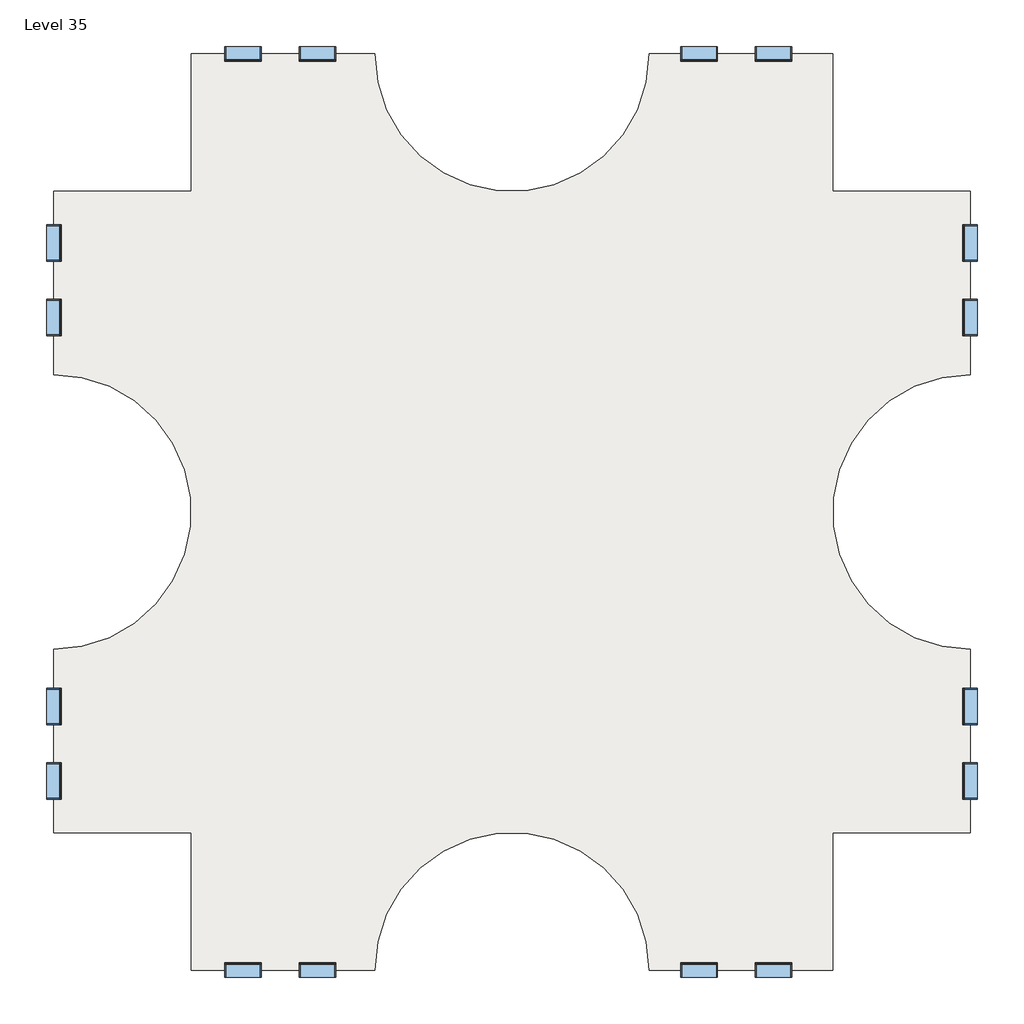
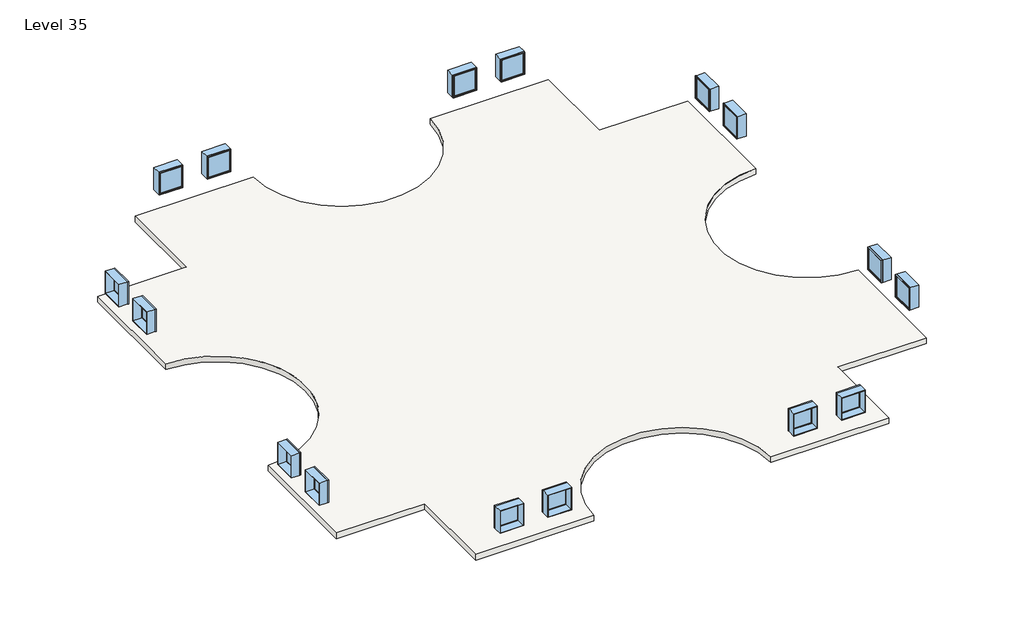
# One storey: 16 windows, 3 slabs.
"""IFC4 building model written with IfcOpenShell, lengths in millimetres."""

import ifcopenshell
import ifcopenshell.guid

model = None  # the IFC model being written
_history = None  # IfcOwnerHistory: only IFC2X3 demands one
_inside = {}  # id of a spatial element -> (the spatial element, [elements in it])
_under = {}  # id of a project, library or spatial element -> (it, [spatial elements below it])
_declared = {}  # id of a project -> (the project, [libraries it declares])
_typed = {}  # id of a type object -> (the type object, [elements of that type])
_made_of = {}  # id of a material, layer set ... -> (it, [elements and type objects made of it])


def new_model(schema):
    """Start an empty IFC model of exactly this schema.

    Asked for "IFC4X3", IfcOpenShell would pick the latest addendum, in which some entities
    have other attributes; the version numbers below select the first issue.
    IFC2X3 requires an IfcOwnerHistory on every rooted entity: one is made here for all.
    """
    global model, _history
    if schema == "IFC4X3":
        model = ifcopenshell.file(schema_version=(4, 3, 0, 0))
    else:
        model = ifcopenshell.file(schema=schema)
    _inside.clear()
    _under.clear()
    _declared.clear()
    _typed.clear()
    _made_of.clear()
    _history = None
    if model.schema == "IFC2X3":
        org = make("IfcOrganization", Name="unknown")
        user = make(
            "IfcPersonAndOrganization",
            ThePerson=make("IfcPerson", FamilyName="unknown"),
            TheOrganization=org,
        )
        app = make(
            "IfcApplication",
            ApplicationDeveloper=org,
            Version="unknown",
            ApplicationFullName="unknown",
            ApplicationIdentifier="unknown",
        )
        _history = make(
            "IfcOwnerHistory",
            OwningUser=user,
            OwningApplication=app,
            ChangeAction="ADDED",
            CreationDate=0,
        )
    return model


def make(cls, **values):
    """One entity of the class cls with the attributes given. An attribute that is None is left unset."""
    return model.create_entity(
        cls, **{name: value for name, value in values.items() if value is not None}
    )


def rooted(cls, **values):
    """An entity with a GlobalId (a new one), such as an element, a storey or a relation."""
    return make(cls, GlobalId=ifcopenshell.guid.new(), OwnerHistory=_history, **values)


def si_unit(unit_type, name, prefix=None):
    """IfcSIUnit, for example si_unit("LENGTHUNIT", "METRE", prefix="MILLI")."""
    return make("IfcSIUnit", UnitType=unit_type, Prefix=prefix, Name=name)


def assignment(units):
    """IfcUnitAssignment: the units of a project."""
    return None if units is None else make("IfcUnitAssignment", Units=units)


def point(xyz):
    """IfcCartesianPoint."""
    return None if xyz is None else make("IfcCartesianPoint", Coordinates=xyz)


def direction(xyz):
    """IfcDirection."""
    return None if xyz is None else make("IfcDirection", DirectionRatios=xyz)


def frame(location, z_axis=None, x_axis=None):
    """IfcAxis2Placement3D, a coordinate frame: its origin and axes. An axis left out is left unset."""
    return make(
        "IfcAxis2Placement3D",
        Location=point(location),
        Axis=direction(z_axis),
        RefDirection=direction(x_axis),
    )


def frame_2d(location, x_axis=None):
    """IfcAxis2Placement2D, a coordinate frame in the plane: its origin and x axis."""
    return make(
        "IfcAxis2Placement2D", Location=point(location), RefDirection=direction(x_axis)
    )


def origin():
    """The frame at (0, 0, 0) with its axes left unset."""
    return frame((0.0, 0.0, 0.0))


def place(relative_to, where):
    """IfcLocalPlacement: puts the frame where relative to a parent placement (None: the world)."""
    return make(
        "IfcLocalPlacement", PlacementRelTo=relative_to, RelativePlacement=where
    )


def context(
    kind, dimensions, precision=None, world=None, true_north=None, identifier=None
):
    """IfcGeometricRepresentationContext, for example the 3D "Model" context."""
    return make(
        "IfcGeometricRepresentationContext",
        ContextIdentifier=identifier,
        ContextType=kind,
        CoordinateSpaceDimension=dimensions,
        Precision=precision,
        WorldCoordinateSystem=world,
        TrueNorth=true_north,
    )


def project(units=None, contexts=None):
    """IfcProject with its units and contexts."""
    return rooted(
        "IfcProject",
        Name="project",
        RepresentationContexts=contexts,
        UnitsInContext=assignment(units),
    )


def spatial(cls, under=None, at=None, **own):
    """A site, building, storey or space (cls), placed at a placement, below another one or the project."""
    s = rooted(cls, ObjectPlacement=at, **own)
    if under is not None:
        _under.setdefault(under.id(), (under, []))[1].append(s)
    return s


def polyline(points):
    """IfcPolyline through the points."""
    return make("IfcPolyline", Points=[point(p) for p in points])


def circle_curve(where, radius):
    """IfcCircle in the frame where."""
    return make("IfcCircle", Position=where, Radius=radius)


def trimmed(basis, trim1, trim2, sense, master):
    """IfcTrimmedCurve: the piece of a basis curve between two trims."""
    return make(
        "IfcTrimmedCurve",
        BasisCurve=basis,
        Trim1=trim1,
        Trim2=trim2,
        SenseAgreement=sense,
        MasterRepresentation=master,
    )


def segment(curve, same_sense, transition):
    """IfcCompositeCurveSegment."""
    return make(
        "IfcCompositeCurveSegment",
        Transition=transition,
        SameSense=same_sense,
        ParentCurve=curve,
    )


def composite_curve(segments, self_intersect=None):
    """IfcCompositeCurve: segments joined end to end."""
    return make("IfcCompositeCurve", Segments=segments, SelfIntersect=self_intersect)


def outline(outer, holes=None, kind="AREA"):
    """IfcArbitraryClosedProfileDef: a profile drawn as a closed curve; with holes, ...WithVoids."""
    if holes is None:
        return make("IfcArbitraryClosedProfileDef", ProfileType=kind, OuterCurve=outer)
    return make(
        "IfcArbitraryProfileDefWithVoids",
        ProfileType=kind,
        OuterCurve=outer,
        InnerCurves=holes,
    )


def extrude(swept, where, along, depth):
    """IfcExtrudedAreaSolid: the profile swept, set in the frame where, extruded along a direction by depth."""
    return make(
        "IfcExtrudedAreaSolid",
        SweptArea=swept,
        Position=where,
        ExtrudedDirection=direction(along),
        Depth=depth,
    )


def shape(context_of_items, identifier, shape_type, items):
    """IfcShapeRepresentation: the items that make up one representation, for example the "Body"."""
    return make(
        "IfcShapeRepresentation",
        ContextOfItems=context_of_items,
        RepresentationIdentifier=identifier,
        RepresentationType=shape_type,
        Items=items,
    )


def source(mapping_origin, context_of_items, identifier, shape_type, items):
    """IfcRepresentationMap: a shape defined once, which mapped items show again and again."""
    return make(
        "IfcRepresentationMap",
        MappingOrigin=mapping_origin,
        MappedRepresentation=shape(context_of_items, identifier, shape_type, items),
    )


def transform(
    local_origin,
    x_axis=None,
    y_axis=None,
    z_axis=None,
    scale=None,
    scale2=None,
    scale3=None,
    uniform=True,
):
    """IfcCartesianTransformationOperator3D, or its non-uniform kind. x_axis, y_axis, z_axis: its Axis1, 2, 3."""
    if uniform:
        return make(
            "IfcCartesianTransformationOperator3D",
            Axis1=direction(x_axis),
            Axis2=direction(y_axis),
            LocalOrigin=point(local_origin),
            Scale=scale,
            Axis3=direction(z_axis),
        )
    return make(
        "IfcCartesianTransformationOperator3DnonUniform",
        Axis1=direction(x_axis),
        Axis2=direction(y_axis),
        LocalOrigin=point(local_origin),
        Scale=scale,
        Axis3=direction(z_axis),
        Scale2=scale2,
        Scale3=scale3,
    )


def mapped(mapping_source, mapping_target):
    """IfcMappedItem: shows the shape of a source again, moved by a transform."""
    return make(
        "IfcMappedItem", MappingSource=mapping_source, MappingTarget=mapping_target
    )


def made_of(thing, what):
    """Note that an element or type object is made of a material, layer set ...; save() writes the relation."""
    if what is not None:
        _made_of.setdefault(what.id(), (what, []))[1].append(thing)
    return thing


def element(
    cls,
    number,
    at=None,
    inside=None,
    cuts=None,
    type_object=None,
    material=None,
    context=None,
    identifier="Body",
    shape_type=None,
    held_by="IfcProductDefinitionShape",
    body=None,
    shapes=None,
    **own,
):
    """One element of the class cls, such as IfcWall. Its Tag is "e" and its number.

    at: its placement. inside: the storey or other place that contains it. cuts: it is an
    opening in that element (IfcRelVoidsElement). A single representation is given by context,
    identifier, shape_type and body (its items); several are given by shapes. held_by: the class
    of the entity that holds the representations. save() writes the other relations.
    """
    e = rooted(cls, Tag="e%d" % number, ObjectPlacement=at, **own)
    if body is not None:
        shapes = [shape(context, identifier, shape_type, body)]
    if shapes is not None:
        e.Representation = make(held_by, Representations=shapes)
    if inside is not None:
        _inside.setdefault(inside.id(), (inside, []))[1].append(e)
    if cuts is not None:
        rooted(
            "IfcRelVoidsElement", RelatingBuildingElement=cuts, RelatedOpeningElement=e
        )
    if type_object is not None:
        _typed.setdefault(type_object.id(), (type_object, []))[1].append(e)
    return made_of(e, material)


def aggregate(whole, parts):
    """IfcRelAggregates: a whole, such as a stair, and the parts it consists of."""
    return rooted("IfcRelAggregates", RelatingObject=whole, RelatedObjects=parts)


def save(model, path):
    """Write the relations noted so far, then the file.

    IfcRelAggregates (storeys below a building ...), IfcRelContainedInSpatialStructure (elements
    in a storey), IfcRelDefinesByType, IfcRelAssociatesMaterial and IfcRelDeclares: one each for
    every whole, place, type object, material and project.
    """
    for whole, parts in _under.values():
        aggregate(whole, parts)
    for where, things in _inside.values():
        rooted(
            "IfcRelContainedInSpatialStructure",
            RelatedElements=things,
            RelatingStructure=where,
        )
    for kind, things in _typed.values():
        rooted("IfcRelDefinesByType", RelatedObjects=things, RelatingType=kind)
    for what, things in _made_of.values():
        rooted("IfcRelAssociatesMaterial", RelatedObjects=things, RelatingMaterial=what)
    for by, libraries in _declared.values():
        rooted("IfcRelDeclares", RelatingContext=by, RelatedDefinitions=libraries)
    model.write(path)


def window_d0035ecf(model_context):
    return source(origin(), model_context, "Body", "SweptSolid", [
        extrude(outline(polyline([(508.0, 200.025), (-584.2, 200.025), (-584.2, 212.725), (508.0, 212.725), (508.0, 200.025)])), frame((0.0, 0.0, 977.9), z_axis=(0.0, 0.0, 1.0), x_axis=(1.0, 0.0, 0.0)), (0.0, 0.0, 1.0), 1092.2),
        extrude(outline(polyline([(2114.55, -628.65), (933.45, -628.65), (933.45, 552.45), (2114.55, 552.45), (2114.55, -628.65)]), holes=[polyline([(2070.1, -584.2), (2070.1, 508.0), (977.9, 508.0), (977.9, -584.2), (2070.1, -584.2)])]), frame((0.0, 184.15, 0.0), z_axis=(0.0, 1.0, 0.0), x_axis=(0.0, 0.0, 1.0)), (0.0, 0.0, 1.0), 44.45),
        extrude(outline(polyline([(2133.6, -647.7), (914.4, -647.7), (914.4, 571.5), (2133.6, 571.5), (2133.6, -647.7)]), holes=[polyline([(2101.85, -615.95), (2101.85, 539.75), (946.15, 539.75), (946.15, -615.95), (2101.85, -615.95)])]), frame((0.0, -247.65, 0.0), z_axis=(0.0, 1.0, 0.0), x_axis=(0.0, 0.0, 1.0)), (0.0, 0.0, 1.0), 431.8),
        extrude(outline(polyline([(2133.6, 571.5), (2133.6, -647.7), (914.4, -647.7), (914.4, 571.5), (2133.6, 571.5)]), holes=[polyline([(2114.55, 552.45), (933.45, 552.45), (933.45, -628.65), (2114.55, -628.65), (2114.55, 552.45)])]), frame((0.0, 184.15, 0.0), z_axis=(0.0, 1.0, 0.0), x_axis=(0.0, 0.0, 1.0)), (0.0, 0.0, 1.0), 63.5),
    ])


def window_d434eb62(model_context):
    return source(origin(), model_context, "Body", "SweptSolid", [
        extrude(outline(polyline([(508.0, -200.025), (508.0, -212.725), (-584.2, -212.725), (-584.2, -200.025), (508.0, -200.025)])), frame((0.0, 0.0, 977.9), z_axis=(0.0, 0.0, 1.0), x_axis=(1.0, 0.0, 0.0)), (0.0, 0.0, 1.0), 1092.2),
        extrude(outline(polyline([(2114.55, -628.65), (933.45, -628.65), (933.45, 552.45), (2114.55, 552.45), (2114.55, -628.65)]), holes=[polyline([(2070.1, -584.2), (2070.1, 508.0), (977.9, 508.0), (977.9, -584.2), (2070.1, -584.2)])]), frame((0.0, -228.6, 0.0), z_axis=(0.0, 1.0, 0.0), x_axis=(0.0, 0.0, 1.0)), (0.0, 0.0, 1.0), 44.45),
        extrude(outline(polyline([(2133.6, -647.7), (914.4, -647.7), (914.4, 571.5), (2133.6, 571.5), (2133.6, -647.7)]), holes=[polyline([(2101.85, -615.95), (2101.85, 539.75), (946.15, 539.75), (946.15, -615.95), (2101.85, -615.95)])]), frame((0.0, -184.15, 0.0), z_axis=(0.0, 1.0, 0.0), x_axis=(0.0, 0.0, 1.0)), (0.0, 0.0, 1.0), 431.8),
        extrude(outline(polyline([(2133.6, 571.5), (2133.6, -647.7), (914.4, -647.7), (914.4, 571.5), (2133.6, 571.5)]), holes=[polyline([(2114.55, 552.45), (933.45, 552.45), (933.45, -628.65), (2114.55, -628.65), (2114.55, 552.45)])]), frame((0.0, -247.65, 0.0), z_axis=(0.0, 1.0, 0.0), x_axis=(0.0, 0.0, 1.0)), (0.0, 0.0, 1.0), 63.5),
    ])


model = new_model("IFC4")

# Units and contexts
model_context = context("Model", 3, world=origin())
ifc_project = project(units=[si_unit("LENGTHUNIT", "METRE", prefix="MILLI")], contexts=[model_context])

# Site, building, storey
site = spatial("IfcSite", under=ifc_project)
building = spatial("IfcBuilding", under=site)
storey = spatial("IfcBuildingStorey", under=building, Name="Level 35", Elevation=103632.0)

# Slabs
placement = place(None, origin())
element("IfcSlab", 1, ObjectType="Generic - 12\"", at=placement, inside=storey, context=model_context, shape_type="SweptSolid", body=[
    extrude(outline(composite_curve([segment(polyline([(-7150.3629456, 4479.6634547), (-7150.3629456, 9051.6634547), (-1054.3629456, 9051.6634547)]), True, "CONTINUOUS"), segment(trimmed(circle_curve(frame_2d((3517.6370544, 9051.6634547)), 4572.0), [point((-1054.3629456, 9051.6634547))], [point((8089.6370544, 9051.6634547))], True, "CARTESIAN"), True, "CONTINUOUS"), segment(polyline([(8089.6370544, 9051.6634547), (14185.6370544, 9051.6634547), (14185.6370544, 4479.6634547), (18757.6370544, 4479.6634547), (18757.6370544, -1616.3365453)]), True, "CONTINUOUS"), segment(trimmed(circle_curve(frame_2d((18757.6370544, -6188.3365453)), 4572.0), [point((18757.6370544, -1616.3365453))], [point((18757.6370544, -10760.3365453))], True, "CARTESIAN"), True, "CONTINUOUS"), segment(polyline([(18757.6370544, -10760.3365453), (18757.6370544, -16856.3365453), (14185.6370544, -16856.3365453), (14185.6370544, -21428.3365453), (8089.6370544, -21428.3365453)]), True, "CONTINUOUS"), segment(trimmed(circle_curve(frame_2d((3517.6370544, -21428.3365453)), 4572.0), [point((8089.6370544, -21428.3365453))], [point((-1054.3629456, -21428.3365453))], True, "CARTESIAN"), True, "CONTINUOUS"), segment(polyline([(-1054.3629456, -21428.3365453), (-7150.3629456, -21428.3365453), (-7150.3629456, -16856.3365453), (-11722.3629456, -16856.3365453), (-11722.3629456, -10760.3365453)]), True, "CONTINUOUS"), segment(trimmed(circle_curve(frame_2d((-11722.3629456, -6188.3365453)), 4572.0), [point((-11722.3629456, -10760.3365453))], [point((-11722.3629456, -1616.3365453))], True, "CARTESIAN"), True, "CONTINUOUS"), segment(polyline([(-11722.3629456, -1616.3365453), (-11722.3629456, 4479.6634547), (-7150.3629456, 4479.6634547)]), True, "CONTINUOUS")], self_intersect=False)), frame((0.0, 0.0, 103327.2), z_axis=(0.0, 0.0, 1.0), x_axis=(1.0, 0.0, 0.0)), (0.0, 0.0, 1.0), 304.8),
])
element("IfcSlab", 2, ObjectType="Generic - 12\"", at=placement, inside=storey, context=model_context, shape_type="SweptSolid", body=[
    extrude(outline(composite_curve([segment(polyline([(-7150.3629456, 4479.6634547), (-7150.3629456, 9051.6634547), (-1054.3629456, 9051.6634547)]), True, "CONTINUOUS"), segment(trimmed(circle_curve(frame_2d((3517.6370544, 9051.6634547)), 4572.0), [point((-1054.3629456, 9051.6634547))], [point((8089.6370544, 9051.6634547))], True, "CARTESIAN"), True, "CONTINUOUS"), segment(polyline([(8089.6370544, 9051.6634547), (14185.6370544, 9051.6634547), (14185.6370544, 4479.6634547), (18757.6370544, 4479.6634547), (18757.6370544, -1616.3365453)]), True, "CONTINUOUS"), segment(trimmed(circle_curve(frame_2d((18757.6370544, -6188.3365453)), 4572.0), [point((18757.6370544, -1616.3365453))], [point((18757.6370544, -10760.3365453))], True, "CARTESIAN"), True, "CONTINUOUS"), segment(polyline([(18757.6370544, -10760.3365453), (18757.6370544, -16856.3365453), (14185.6370544, -16856.3365453), (14185.6370544, -21428.3365453), (8089.6370544, -21428.3365453)]), True, "CONTINUOUS"), segment(trimmed(circle_curve(frame_2d((3517.6370544, -21428.3365453)), 4572.0), [point((8089.6370544, -21428.3365453))], [point((-1054.3629456, -21428.3365453))], True, "CARTESIAN"), True, "CONTINUOUS"), segment(polyline([(-1054.3629456, -21428.3365453), (-7150.3629456, -21428.3365453), (-7150.3629456, -16856.3365453), (-11722.3629456, -16856.3365453), (-11722.3629456, -10760.3365453)]), True, "CONTINUOUS"), segment(trimmed(circle_curve(frame_2d((-11722.3629456, -6188.3365453)), 4572.0), [point((-11722.3629456, -10760.3365453))], [point((-11722.3629456, -1616.3365453))], True, "CARTESIAN"), True, "CONTINUOUS"), segment(polyline([(-11722.3629456, -1616.3365453), (-11722.3629456, 4479.6634547), (-7150.3629456, 4479.6634547)]), True, "CONTINUOUS")], self_intersect=False)), frame((0.0, 0.0, 103327.2), z_axis=(0.0, 0.0, 1.0), x_axis=(1.0, 0.0, 0.0)), (0.0, 0.0, 1.0), 304.8),
])
element("IfcSlab", 3, ObjectType="Generic - 12\"", at=placement, inside=storey, context=model_context, shape_type="SweptSolid", body=[
    extrude(outline(composite_curve([segment(polyline([(-7150.3629456, 4479.6634547), (-7150.3629456, 9051.6634547), (-1054.3629456, 9051.6634547)]), True, "CONTINUOUS"), segment(trimmed(circle_curve(frame_2d((3517.6370544, 9051.6634547)), 4572.0), [point((-1054.3629456, 9051.6634547))], [point((8089.6370544, 9051.6634547))], True, "CARTESIAN"), True, "CONTINUOUS"), segment(polyline([(8089.6370544, 9051.6634547), (14185.6370544, 9051.6634547), (14185.6370544, 4479.6634547), (18757.6370544, 4479.6634547), (18757.6370544, -1616.3365453)]), True, "CONTINUOUS"), segment(trimmed(circle_curve(frame_2d((18757.6370544, -6188.3365453)), 4572.0), [point((18757.6370544, -1616.3365453))], [point((18757.6370544, -10760.3365453))], True, "CARTESIAN"), True, "CONTINUOUS"), segment(polyline([(18757.6370544, -10760.3365453), (18757.6370544, -16856.3365453), (14185.6370544, -16856.3365453), (14185.6370544, -21428.3365453), (8089.6370544, -21428.3365453)]), True, "CONTINUOUS"), segment(trimmed(circle_curve(frame_2d((3517.6370544, -21428.3365453)), 4572.0), [point((8089.6370544, -21428.3365453))], [point((-1054.3629456, -21428.3365453))], True, "CARTESIAN"), True, "CONTINUOUS"), segment(polyline([(-1054.3629456, -21428.3365453), (-7150.3629456, -21428.3365453), (-7150.3629456, -16856.3365453), (-11722.3629456, -16856.3365453), (-11722.3629456, -10760.3365453)]), True, "CONTINUOUS"), segment(trimmed(circle_curve(frame_2d((-11722.3629456, -6188.3365453)), 4572.0), [point((-11722.3629456, -10760.3365453))], [point((-11722.3629456, -1616.3365453))], True, "CARTESIAN"), True, "CONTINUOUS"), segment(polyline([(-11722.3629456, -1616.3365453), (-11722.3629456, 4479.6634547), (-7150.3629456, 4479.6634547)]), True, "CONTINUOUS")], self_intersect=False)), frame((0.0, 0.0, 103327.2), z_axis=(0.0, 0.0, 1.0), x_axis=(1.0, 0.0, 0.0)), (0.0, 0.0, 1.0), 304.8),
])

# Windows
window_shape = window_d0035ecf(model_context)
element("IfcWindow", 4, ObjectType="Fixed : 48\" x 48\"", at=placement, inside=storey, context=model_context, shape_type="MappedRepresentation", body=[
    mapped(window_shape, transform((-11719.1879456, 247.3884547, 103632.0), x_axis=(0.0, -1.0, 0.0), y_axis=(1.0, 0.0, 0.0), z_axis=(0.0, 0.0, 1.0))),
])
element("IfcWindow", 5, ObjectType="Fixed : 48\" x 48\"", at=placement, inside=storey, context=model_context, shape_type="MappedRepresentation", body=[
    mapped(window_shape, transform((-5469.1993281, 9048.4884547, 103632.0), x_axis=(-1.0, 0.0, 0.0), y_axis=(0.0, -1.0, 0.0), z_axis=(0.0, 0.0, 1.0))),
])
element("IfcWindow", 6, ObjectType="Fixed : 48\" x 48\"", at=placement, inside=storey, context=model_context, shape_type="MappedRepresentation", body=[
    mapped(window_shape, transform((-11719.1879456, -15175.1729277, 103632.0), x_axis=(0.0, -1.0, 0.0), y_axis=(1.0, 0.0, 0.0), z_axis=(0.0, 0.0, 1.0))),
])
element("IfcWindow", 7, ObjectType="Fixed : 48\" x 48\"", at=placement, inside=storey, context=model_context, shape_type="MappedRepresentation", body=[
    mapped(window_shape, transform((-2918.0879456, -21425.1615453, 103632.0), x_axis=(1.0, 0.0, 0.0), y_axis=(0.0, 1.0, 0.0), z_axis=(0.0, 0.0, 1.0))),
])
element("IfcWindow", 8, ObjectType="Fixed : 48\" x 48\"", at=placement, inside=storey, context=model_context, shape_type="MappedRepresentation", body=[
    mapped(window_shape, transform((18754.4620544, 2798.4998372, 103632.0), x_axis=(0.0, 1.0, 0.0), y_axis=(-1.0, 0.0, 0.0), z_axis=(0.0, 0.0, 1.0))),
])
element("IfcWindow", 9, ObjectType="Fixed : 48\" x 48\"", at=placement, inside=storey, context=model_context, shape_type="MappedRepresentation", body=[
    mapped(window_shape, transform((9705.7120544, 9048.4884547, 103632.0), x_axis=(-1.0, 0.0, 0.0), y_axis=(0.0, -1.0, 0.0), z_axis=(0.0, 0.0, 1.0))),
])
element("IfcWindow", 10, ObjectType="Fixed : 48\" x 48\"", at=placement, inside=storey, context=model_context, shape_type="MappedRepresentation", body=[
    mapped(window_shape, transform((18754.4620544, -12624.0615453, 103632.0), x_axis=(0.0, 1.0, 0.0), y_axis=(-1.0, 0.0, 0.0), z_axis=(0.0, 0.0, 1.0))),
])
element("IfcWindow", 11, ObjectType="Fixed : 48\" x 48\"", at=placement, inside=storey, context=model_context, shape_type="MappedRepresentation", body=[
    mapped(window_shape, transform((12256.8234368, -21425.1615453, 103632.0), x_axis=(1.0, 0.0, 0.0), y_axis=(0.0, 1.0, 0.0), z_axis=(0.0, 0.0, 1.0))),
])
window_2_shape = window_d434eb62(model_context)
element("IfcWindow", 12, ObjectType="Fixed : 48\" x 48\"", at=placement, inside=storey, context=model_context, shape_type="MappedRepresentation", body=[
    mapped(window_2_shape, transform((-11719.1879456, 2798.4998372, 103632.0), x_axis=(0.0, 1.0, 0.0), y_axis=(-1.0, 0.0, 0.0), z_axis=(0.0, 0.0, 1.0))),
])
element("IfcWindow", 13, ObjectType="Fixed : 48\" x 48\"", at=placement, inside=storey, context=model_context, shape_type="MappedRepresentation", body=[
    mapped(window_2_shape, transform((-2918.0879456, 9048.4884547, 103632.0), x_axis=(1.0, 0.0, 0.0), y_axis=(0.0, 1.0, 0.0), z_axis=(0.0, 0.0, 1.0))),
])
element("IfcWindow", 14, ObjectType="Fixed : 48\" x 48\"", at=placement, inside=storey, context=model_context, shape_type="MappedRepresentation", body=[
    mapped(window_2_shape, transform((-11719.1879456, -12624.0615453, 103632.0), x_axis=(0.0, 1.0, 0.0), y_axis=(-1.0, 0.0, 0.0), z_axis=(0.0, 0.0, 1.0))),
])
element("IfcWindow", 15, ObjectType="Fixed : 48\" x 48\"", at=placement, inside=storey, context=model_context, shape_type="MappedRepresentation", body=[
    mapped(window_2_shape, transform((-5469.1993281, -21425.1615453, 103632.0), x_axis=(-1.0, 0.0, 0.0), y_axis=(0.0, -1.0, 0.0), z_axis=(0.0, 0.0, 1.0))),
])
element("IfcWindow", 16, ObjectType="Fixed : 48\" x 48\"", at=placement, inside=storey, context=model_context, shape_type="MappedRepresentation", body=[
    mapped(window_2_shape, transform((18754.4620544, 247.3884547, 103632.0), x_axis=(0.0, -1.0, 0.0), y_axis=(1.0, 0.0, 0.0), z_axis=(0.0, 0.0, 1.0))),
])
element("IfcWindow", 17, ObjectType="Fixed : 48\" x 48\"", at=placement, inside=storey, context=model_context, shape_type="MappedRepresentation", body=[
    mapped(window_2_shape, transform((12256.8234368, 9048.4884547, 103632.0), x_axis=(1.0, 0.0, 0.0), y_axis=(0.0, 1.0, 0.0), z_axis=(0.0, 0.0, 1.0))),
])
element("IfcWindow", 18, ObjectType="Fixed : 48\" x 48\"", at=placement, inside=storey, context=model_context, shape_type="MappedRepresentation", body=[
    mapped(window_2_shape, transform((18754.4620544, -15175.1729277, 103632.0), x_axis=(0.0, -1.0, 0.0), y_axis=(1.0, 0.0, 0.0), z_axis=(0.0, 0.0, 1.0))),
])
element("IfcWindow", 19, ObjectType="Fixed : 48\" x 48\"", at=placement, inside=storey, context=model_context, shape_type="MappedRepresentation", body=[
    mapped(window_2_shape, transform((9705.7120544, -21425.1615453, 103632.0), x_axis=(-1.0, 0.0, 0.0), y_axis=(0.0, -1.0, 0.0), z_axis=(0.0, 0.0, 1.0))),
])

save(model, "model.ifc")
